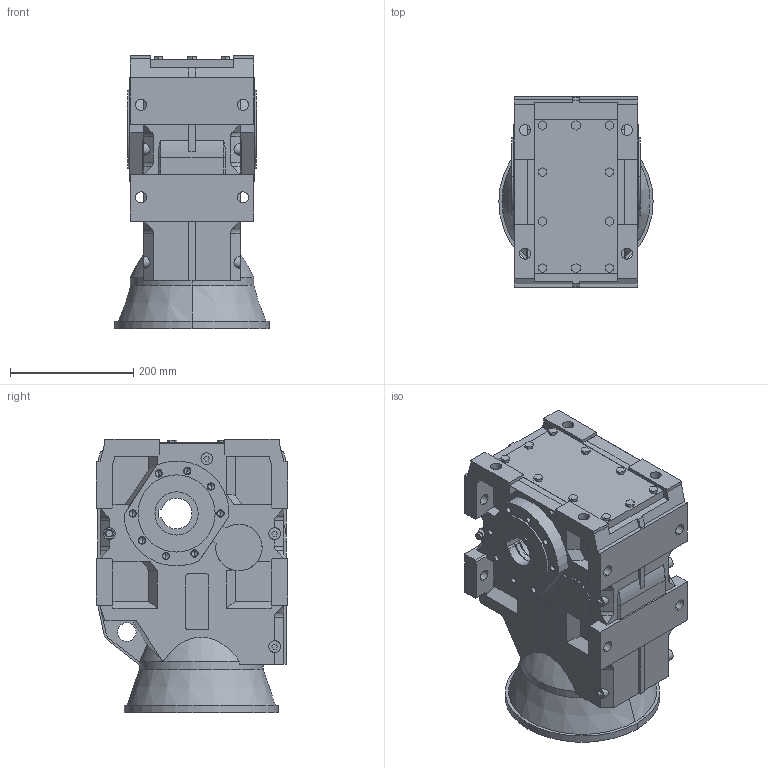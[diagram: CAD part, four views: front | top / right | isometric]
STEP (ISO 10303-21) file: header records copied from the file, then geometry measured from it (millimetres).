
FILE_DESCRIPTION((''),'2;1');
FILE_NAME('KXC503_250-28_CATALEG_ASM','2007-02-09T',('fxicoy'),(''),'PRO/ENGINEER BY PARAMETRIC TECHNOLOGY CORPORATION, 2006320','PRO/ENGINEER BY PARAMETRIC TECHNOLOGY CORPORATION, 2006320','');
FILE_SCHEMA(('CONFIG_CONTROL_DESIGN'));
Length unit declared in the file: millimetre
Products named in the file (3): BASE_KX50_CATALEG_INFORM; BRIDA_DX_KX_45_50_250-28_CATAL; KXC503_250-28_CATALEG_ASM
Assembly tree (2 placements, depth 2):
  KXC503_250-28_CATALEG_ASM
    BASE_KX50_CATALEG_INFORM
    BRIDA_DX_KX_45_50_250-28_CATAL
Bounding box: 250 x 310 x 442.5 mm (x, y, z)
Volume: 19482729.1 mm3; surface area: 782167.4 mm2
Topology: 2 solids, 18 shells, 599 faces, 1607 edges, 1048 vertices
Faces by surface type: plane 383, cylinder 174, cone 36, bspline 6
Entity records: 18749 total; most frequent: CARTESIAN_POINT 3564, DIRECTION 3093, ORIENTED_EDGE 3086, EDGE_CURVE 1575, VECTOR 1145, LINE 1145, VERTEX_POINT 1048, AXIS2_PLACEMENT_3D 974
